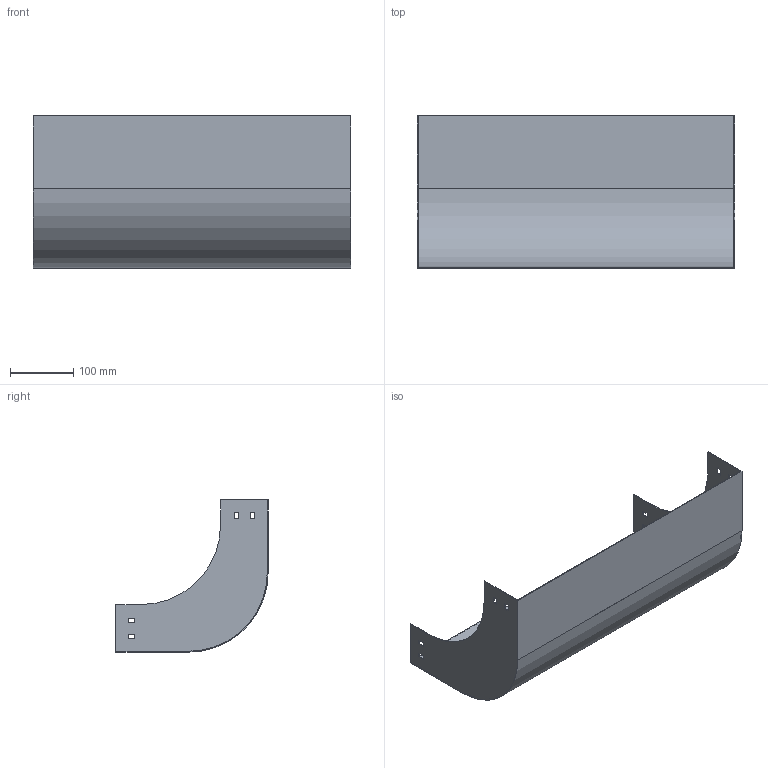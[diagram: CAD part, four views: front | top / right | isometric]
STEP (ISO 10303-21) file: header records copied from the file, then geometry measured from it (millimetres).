
FILE_DESCRIPTION (( 'STEP AP214' ), '1' );
FILE_NAME ('S9_507.step', '2025-07-16T09:28:39', ( '' ), ( '' ), 'SwSTEP 2.0', 'SolidWorks 2023', '' );
FILE_SCHEMA (( 'AUTOMOTIVE_DESIGN' ));
Length unit declared in the file: millimetre
Products named in the file (1): S9_507
Bounding box: 500 x 240 x 240 mm (x, y, z)
Volume: 407250.3 mm3; surface area: 546182 mm2
Topology: 1 solids, 1 shells, 50 faces, 144 edges, 96 vertices
Faces by surface type: plane 46, cylinder 4
Entity records: 1671 total; most frequent: CARTESIAN_POINT 291, ORIENTED_EDGE 288, DIRECTION 254, EDGE_CURVE 144, VECTOR 136, LINE 136, VERTEX_POINT 96, EDGE_LOOP 66
